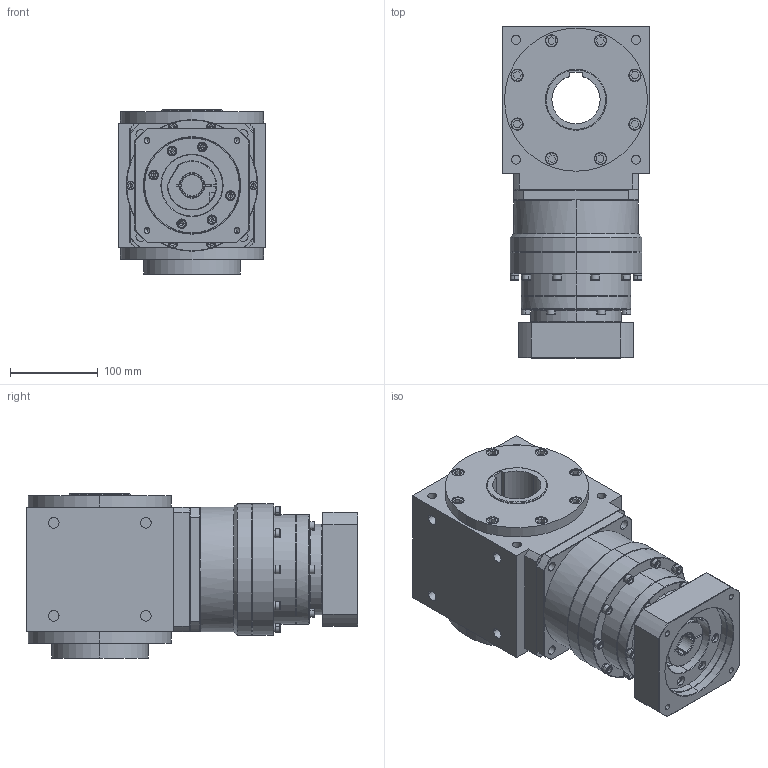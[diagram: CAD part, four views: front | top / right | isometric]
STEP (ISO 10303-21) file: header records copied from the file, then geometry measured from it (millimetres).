
FILE_DESCRIPTION (( 'STEP AP203' ), '1' );
FILE_NAME ('AAW165AS-L2-RFK 24-110-145-M8.STEP', '2024-12-24T08:46:35', ( '' ), ( '' ), 'SwSTEP 2.0', 'SolidWorks 2021', '' );
FILE_SCHEMA (( 'CONFIG_CONTROL_DESIGN' ));
Length unit declared in the file: millimetre
Products named in the file (3): KS142L2-110-24-62-M8-145俋倛芞; AAW165AS-RFK; AAW165AS-L2-RFK 24-110-145-M8
Assembly tree (2 placements, depth 2):
  AAW165AS-L2-RFK 24-110-145-M8
    AAW165AS-RFK
    KS142L2-110-24-62-M8-145俋倛芞
Bounding box: 168 x 378 x 187 mm (x, y, z)
Volume: 7184221.1 mm3; surface area: 526899.5 mm2
Topology: 52 solids, 52 shells, 1538 faces, 3626 edges, 2253 vertices
Faces by surface type: plane 734, cylinder 531, cone 225, bspline 46, torus 2
Entity records: 45375 total; most frequent: CARTESIAN_POINT 9679, DIRECTION 7752, ORIENTED_EDGE 7056, EDGE_CURVE 3528, AXIS2_PLACEMENT_3D 2974, VERTEX_POINT 2253, VECTOR 1804, LINE 1804
